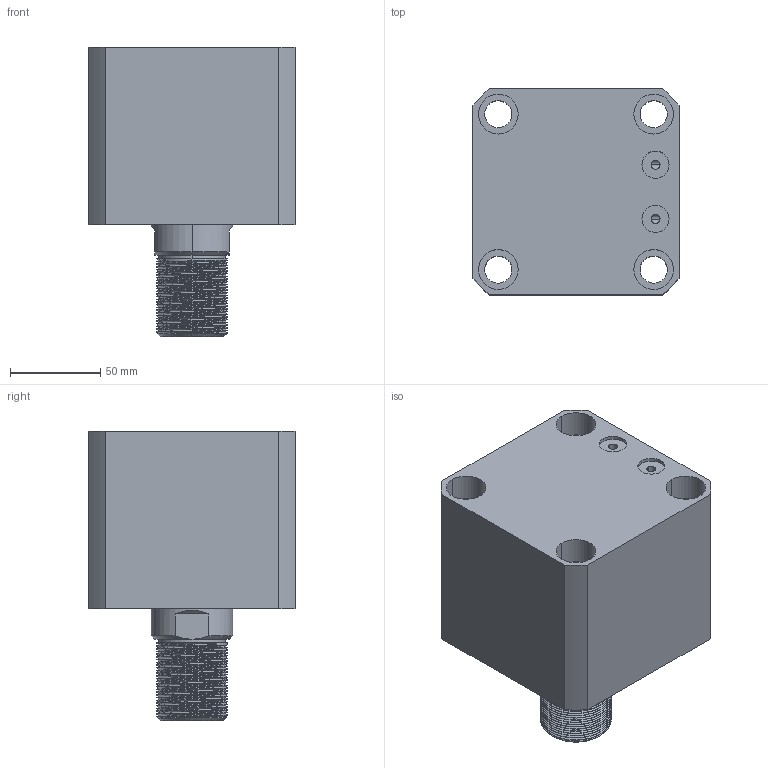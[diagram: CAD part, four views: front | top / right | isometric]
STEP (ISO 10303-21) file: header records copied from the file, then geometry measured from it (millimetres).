
FILE_DESCRIPTION (( 'STEP AP214' ), '1' );
FILE_NAME ('chtb-sdmb80x20w_asm.STEP', '2018-05-26T02:32:48', ( 'Windows' ), ( 'Microsoft' ), 'SwSTEP 2.0', 'SolidWorks 2015', '' );
FILE_SCHEMA (( 'AUTOMOTIVE_DESIGN' ));
Length unit declared in the file: millimetre
Products named in the file (4): CHTB-SDMB80X20NBT; CHTB-SD80X20WHSG; CHTB-SD80QG; chtb-sdmb80x20w_asm
Assembly tree (3 placements, depth 2):
  chtb-sdmb80x20w_asm
    CHTB-SD80QG
    CHTB-SD80X20WHSG
    CHTB-SDMB80X20NBT
Bounding box: 114 x 114 x 160 mm (x, y, z)
Volume: 1154746.8 mm3; surface area: 176991 mm2
Topology: 3 solids, 3 shells, 251 faces, 695 edges, 466 vertices
Faces by surface type: cylinder 163, plane 38, torus 18, bspline 16, cone 16
Entity records: 20297 total; most frequent: CARTESIAN_POINT 14321, ORIENTED_EDGE 1382, DIRECTION 1068, EDGE_CURVE 691, VERTEX_POINT 466, AXIS2_PLACEMENT_3D 433, EDGE_LOOP 289, ADVANCED_FACE 251
